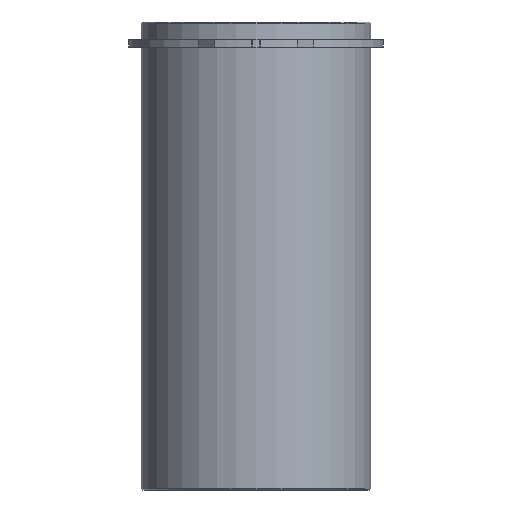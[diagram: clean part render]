
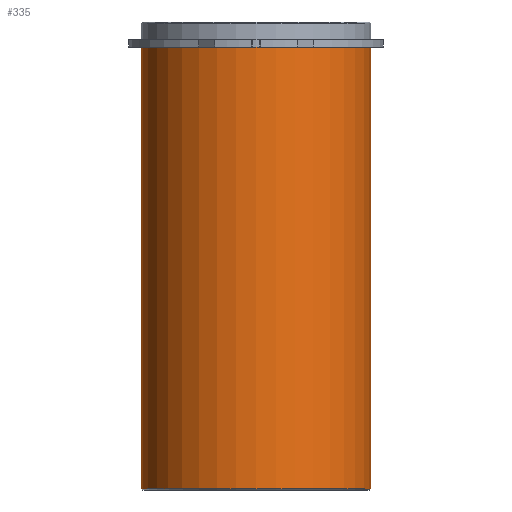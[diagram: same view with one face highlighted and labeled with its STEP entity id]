
A CAD part, front view. The second image highlights one B-rep face of the part: STEP entity #335.
In plain terms, the highlighted cylindrical face has radius 30.625 mm (diameter 61.25 mm), a partial arc.
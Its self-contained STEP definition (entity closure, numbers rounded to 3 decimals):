
#294=CARTESIAN_POINT('',(0.0,0.,-59.0));
#295=DIRECTION('',(0.0,0.,1.0));
#296=DIRECTION('',(1.0,0.0,0.0));
#297=AXIS2_PLACEMENT_3D('',#294,#295,#296);
#298=CYLINDRICAL_SURFACE('',#297,30.625);
#299=CARTESIAN_POINT('',(30.625,0.0,0.0));
#300=VERTEX_POINT('',#299);
#301=CARTESIAN_POINT('',(30.625,0.,-118.0));
#302=VERTEX_POINT('',#301);
#303=CARTESIAN_POINT('',(30.625,0.0,0.0));
#304=DIRECTION('',(0.0,0.0,-1.0));
#305=VECTOR('',#304,118.0);
#306=LINE('',#303,#305);
#307=EDGE_CURVE('',#300,#302,#306,.T.);
#308=ORIENTED_EDGE('',*,*,#307,.F.);
#309=CARTESIAN_POINT('',(-30.625,0.,0.0));
#310=VERTEX_POINT('',#309);
#311=CARTESIAN_POINT('',(0.0,0.0,0.0));
#312=DIRECTION('',(0.0,0.0,1.0));
#313=DIRECTION('',(1.0,0.0,0.0));
#314=AXIS2_PLACEMENT_3D('',#311,#312,#313);
#315=CIRCLE('',#314,30.625);
#316=EDGE_CURVE('',#310,#300,#315,.T.);
#317=ORIENTED_EDGE('',*,*,#316,.F.);
#318=CARTESIAN_POINT('',(-30.625,0.,-118.0));
#319=VERTEX_POINT('',#318);
#320=CARTESIAN_POINT('',(-30.625,0.,0.0));
#321=DIRECTION('',(0.0,0.0,-1.0));
#322=VECTOR('',#321,118.0);
#323=LINE('',#320,#322);
#324=EDGE_CURVE('',#310,#319,#323,.T.);
#325=ORIENTED_EDGE('',*,*,#324,.T.);
#326=CARTESIAN_POINT('',(0.0,0.,-118.0));
#327=DIRECTION('',(0.0,0.0,1.0));
#328=DIRECTION('',(1.0,0.0,0.0));
#329=AXIS2_PLACEMENT_3D('',#326,#327,#328);
#330=CIRCLE('',#329,30.625);
#331=EDGE_CURVE('',#319,#302,#330,.T.);
#332=ORIENTED_EDGE('',*,*,#331,.T.);
#333=EDGE_LOOP('',(#308,#317,#325,#332));
#334=FACE_OUTER_BOUND('',#333,.T.);
#335=ADVANCED_FACE('',(#334),#298,.T.);
